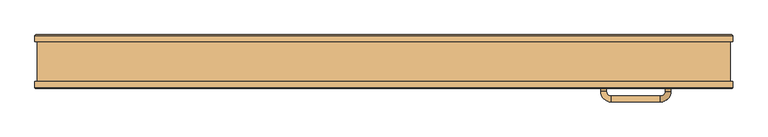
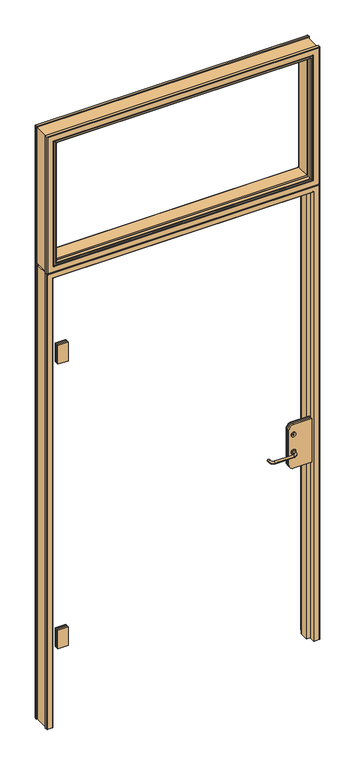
"""IFC4 building model written with IfcOpenShell, lengths in millimetres: door geometry, GLASSLINE_GLASDÖRR I TRAKARM : GLASSLINE_GLASDÖRR I TRAKARM."""

from ifc_helpers import new_model, si_unit, point, frame, frame_2d, origin, place, context, project, spatial, polyline, circle_curve, ellipse_curve, trimmed, segment, composite_curve, outline, extrude, faceted_brep, source, transform, mapped, element, save
from ifc_brep_helpers import plane_surface, cylinder_surface, revolved_surface, advanced_brep


def door_593d37a7(model_context):
    return source(origin(), model_context, "Body", "SolidModel", [
        faceted_brep([(-498.0, 16.0, 436.0), (-498.0, 16.0, 350.0), (-543.0, 16.0, 350.0), (-543.0, 16.0, 436.0), (-498.0, 8.0, 436.0), (-543.0, 8.0, 436.0), (-543.0, 8.0, 350.0), (-498.0, 8.0, 350.0)], [[[0, 1, 2, 3]], [[4, 5, 6, 7]], [[1, 0, 4, 7]], [[2, 1, 7, 6]], [[3, 2, 6, 5]], [[0, 3, 5, 4]]]),
        faceted_brep([(-498.0, 16.0, 1750.0), (-498.0, 16.0, 1664.0), (-543.0, 16.0, 1664.0), (-543.0, 16.0, 1750.0), (-498.0, 8.0, 1750.0), (-543.0, 8.0, 1750.0), (-543.0, 8.0, 1664.0), (-498.0, 8.0, 1664.0)], [[[0, 1, 2, 3]], [[4, 5, 6, 7]], [[1, 0, 4, 7]], [[2, 1, 7, 6]], [[3, 2, 6, 5]], [[0, 3, 5, 4]]]),
        advanced_brep(
        [(565.0, 16.0, 1025.0), (565.0, 16.0, 825.0), (485.0, 16.0, 825.0), (465.0, 16.0, 845.0), (465.0, 16.0, 1005.0), (485.0, 16.0, 1025.0), (565.0, 8.0, 1025.0), (485.0, 8.0, 1025.0), (465.0, 8.0, 1005.0), (465.0, 8.0, 845.0), (485.0, 8.0, 825.0), (565.0, 8.0, 825.0), (475.0, 8.0, 900.0), (495.0, 8.0, 900.0), (475.0, 8.0, 980.0), (495.0, 8.0, 980.0), (484.0, 8.0, 980.631966), (484.0, 8.0, 976.75), (486.0, 8.0, 976.75), (486.0, 8.0, 980.631966), (475.0, 7.1077199, 900.0), (495.0, 7.1077199, 900.0), (475.0, 7.1077199, 980.0), (495.0, 7.1077199, 980.0), (484.0, 7.1077199, 980.631966), (486.0, 7.1077199, 980.631966), (486.0, 7.1077199, 976.75), (484.0, 7.1077199, 976.75)],
        [
            (0, 1),
            (1, 2),
            (2, 3, circle_curve(frame((485.0, 16.0, 845.0), z_axis=(0.0, 1.0, 0.0), x_axis=(1.0, 0.0, 0.0)), 20.0)),
            (3, 4),
            (4, 5, circle_curve(frame((485.0, 16.0, 1005.0), z_axis=(0.0, 1.0, 0.0), x_axis=(1.0, 0.0, 0.0)), 20.0)),
            (5, 0),
            (6, 7),
            (7, 8, circle_curve(frame((485.0, 8.0, 1005.0), z_axis=(0.0, -1.0, 0.0), x_axis=(1.0, 0.0, 0.0)), 20.0)),
            (8, 9),
            (9, 10, circle_curve(frame((485.0, 8.0, 845.0), z_axis=(0.0, -1.0, 0.0), x_axis=(1.0, 0.0, 0.0)), 20.0)),
            (10, 11),
            (11, 6),
            (12, 13, circle_curve(frame((485.0, 8.0, 900.0), z_axis=(0.0, 1.0, 0.0), x_axis=(1.0, 0.0, 0.0)), 10.0)),
            (13, 12, circle_curve(frame((485.0, 8.0, 900.0), z_axis=(0.0, 1.0, 0.0), x_axis=(1.0, 0.0, 0.0)), 10.0)),
            (14, 15, circle_curve(frame((485.0, 8.0, 980.0), z_axis=(0.0, 1.0, 0.0), x_axis=(1.0, 0.0, 0.0)), 10.0)),
            (15, 14, circle_curve(frame((485.0, 8.0, 980.0), z_axis=(0.0, 1.0, 0.0), x_axis=(1.0, 0.0, 0.0)), 10.0)),
            (16, 17),
            (17, 18),
            (18, 19),
            (19, 16, circle_curve(frame((485.0, 8.0, 981.75), z_axis=(0.0, -1.0, 0.0), x_axis=(1.0, 0.0, 0.0)), 1.5)),
            (0, 6),
            (11, 1),
            (10, 2),
            (9, 3),
            (8, 4),
            (7, 5),
            (20, 21, circle_curve(frame((485.0, 7.1077199, 900.0), z_axis=(0.0, -1.0, 0.0), x_axis=(1.0, 0.0, 0.0)), 10.0)),
            (21, 20, circle_curve(frame((485.0, 7.1077199, 900.0), z_axis=(0.0, -1.0, 0.0), x_axis=(1.0, 0.0, 0.0)), 10.0)),
            (22, 23, circle_curve(frame((485.0, 7.1077199, 980.0), z_axis=(0.0, -1.0, 0.0), x_axis=(1.0, 0.0, 0.0)), 10.0)),
            (23, 22, circle_curve(frame((485.0, 7.1077199, 980.0), z_axis=(0.0, -1.0, 0.0), x_axis=(1.0, 0.0, 0.0)), 10.0)),
            (24, 25, circle_curve(frame((485.0, 7.1077199, 981.75), z_axis=(0.0, 1.0, 0.0), x_axis=(1.0, 0.0, 0.0)), 1.5)),
            (25, 26),
            (26, 27),
            (27, 24),
            (21, 13),
            (12, 20),
            (23, 15),
            (14, 22),
            (27, 17),
            (16, 24),
            (26, 18),
            (25, 19),
        ],
        [
            plane_surface(frame((-545.0, 16.0, 0.0), z_axis=(0.0, 1.0, 0.0), x_axis=(0.0, 0.0, 1.0))),
            plane_surface(frame((-545.0, 8.0, 0.0), z_axis=(0.0, -1.0, 0.0), x_axis=(0.0, 0.0, 1.0))),
            plane_surface(frame((565.0, 16.0, 1025.0), z_axis=(1.0, 0.0, 0.0), x_axis=(0.0, -1.0, 0.0))),
            plane_surface(frame((565.0, 16.0, 825.0), z_axis=(0.0, 0.0, -1.0), x_axis=(0.0, -1.0, 0.0))),
            cylinder_surface(frame((485.0, 16.0, 845.0), z_axis=(0.0, 1.0, 0.0), x_axis=(1.0, 0.0, 0.0)), 20.0),
            plane_surface(frame((465.0, 16.0, 845.0), z_axis=(-1.0, 0.0, 0.0), x_axis=(0.0, -1.0, 0.0))),
            cylinder_surface(frame((485.0, 16.0, 1005.0), z_axis=(0.0, 1.0, 0.0), x_axis=(1.0, 0.0, 0.0)), 20.0),
            plane_surface(frame((485.0, 16.0, 1025.0), z_axis=(0.0, 0.0, 1.0), x_axis=(0.0, -1.0, 0.0))),
            plane_surface(frame((485.0, 7.1077199, 0.0), z_axis=(0.0, -1.0, 0.0), x_axis=(0.0, 0.0, 1.0))),
            cylinder_surface(frame((485.0, 16.0, 900.0), z_axis=(0.0, 1.0, 0.0), x_axis=(1.0, 0.0, 0.0)), 10.0),
            cylinder_surface(frame((485.0, 16.0, 980.0), z_axis=(0.0, 1.0, 0.0), x_axis=(1.0, 0.0, 0.0)), 10.0),
            plane_surface(frame((484.0, 16.0, 980.631966), z_axis=(1.0, 0.0, 0.0), x_axis=(0.0, -1.0, 0.0))),
            plane_surface(frame((484.0, 16.0, 976.75), z_axis=(0.0, 0.0, 1.0), x_axis=(0.0, -1.0, 0.0))),
            plane_surface(frame((486.0, 16.0, 976.75), z_axis=(-1.0, 0.0, 0.0), x_axis=(0.0, -1.0, 0.0))),
            revolved_surface(polyline([(486.5, 7.107719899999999, 981.75), (486.5, 8.0, 981.75)]), (485.0, 16.0, 981.75), (0.0, -1.0, 0.0)),
        ],
        [
            (0, [[1, 2, 3, 4, 5, 6]]),
            (1, [[7, 8, 9, 10, 11, 12], [13, 14], [15, 16]]),
            (1, [[17, 18, 19, 20]]),
            (2, [[-1, 21, -12, 22]]),
            (3, [[-2, -22, -11, 23]]),
            (4, [[-3, -23, -10, 24]]),
            (5, [[-4, -24, -9, 25]]),
            (6, [[-5, -25, -8, 26]]),
            (7, [[-6, -26, -7, -21]]),
            (8, [[27, 28]]),
            (8, [[29, 30], [31, 32, 33, 34]]),
            (9, [[-28, 35, -13, 36]]),
            (9, [[-27, -36, -14, -35]]),
            (10, [[-30, 37, -15, 38]]),
            (10, [[-29, -38, -16, -37]]),
            (11, [[-34, 39, -17, 40]]),
            (12, [[-33, 41, -18, -39]]),
            (13, [[-32, 42, -19, -41]]),
            (14, [[-31, -40, -20, -42]]),
        ],
    ),
        extrude(outline(polyline([(-498.0, 24.0), (-543.0, 24.0), (-543.0, 28.0), (-498.0, 28.0), (-498.0, 24.0)])), frame((0.0, 0.0, 350.0), z_axis=(0.0, 0.0, 1.0), x_axis=(1.0, 0.0, 0.0)), (0.0, 0.0, 1.0), 86.0),
        extrude(outline(polyline([(-498.0, 24.0), (-543.0, 24.0), (-543.0, 28.0), (-498.0, 28.0), (-498.0, 24.0)])), frame((0.0, 0.0, 1664.0), z_axis=(0.0, 0.0, 1.0), x_axis=(1.0, 0.0, 0.0)), (0.0, 0.0, 1.0), 86.0),
        extrude(outline(composite_curve([segment(polyline([(1025.0, 565.0), (1025.0, 485.0)]), True, "CONTINUOUS"), segment(trimmed(circle_curve(frame_2d((1005.0, 485.0)), 20.0), [point((1025.0, 485.0))], [point((1005.0, 465.0))], False, "CARTESIAN"), True, "CONTINUOUS"), segment(polyline([(1005.0, 465.0), (845.0, 465.0)]), True, "CONTINUOUS"), segment(trimmed(circle_curve(frame_2d((845.0, 485.0)), 20.0), [point((845.0, 465.0))], [point((825.0, 485.0))], False, "CARTESIAN"), True, "CONTINUOUS"), segment(polyline([(825.0, 485.0), (825.0, 565.0), (1025.0, 565.0)]), True, "CONTINUOUS")], self_intersect=False)), frame((0.0, 24.0, 0.0), z_axis=(0.0, 1.0, 0.0), x_axis=(0.0, 0.0, 1.0)), (0.0, 0.0, 1.0), 4.0),
        advanced_brep(
        [(-595.0, 12.0, 2735.0), (-595.0, 2.0, 2735.0), (595.0, 2.0, 2735.0), (595.0, 12.0, 2735.0), (595.0, 2.0, 2100.0), (595.0, 12.0, 2100.0), (-595.0, 2.0, 2100.0), (-595.0, 12.0, 2100.0), (-563.0, 0.0, 2703.0), (-563.0, 0.0, 2132.0), (563.0, 0.0, 2132.0), (563.0, 0.0, 2703.0), (557.0, 0.0, 2697.0), (557.0, 0.0, 2138.0), (-557.0, 0.0, 2138.0), (-557.0, 0.0, 2697.0), (593.0, 92.0, 2733.0), (593.0, 92.0, 2102.0), (-593.0, 92.0, 2102.0), (-593.0, 92.0, 2733.0), (-569.0, 92.0, 2709.0), (-569.0, 92.0, 2126.0), (569.0, 92.0, 2126.0), (569.0, 92.0, 2709.0), (555.0, 2.0, 2695.0), (555.0, 17.0, 2695.0), (555.0, 17.0, 2140.0), (555.0, 2.0, 2140.0), (593.0, 0.0, 2733.0), (593.0, 0.0, 2102.0), (591.0, 80.0, 2731.0), (591.0, 12.0, 2731.0), (591.0, 12.0, 2104.0), (591.0, 80.0, 2104.0), (595.0, 90.0, 2735.0), (595.0, 80.0, 2735.0), (595.0, 80.0, 2100.0), (595.0, 90.0, 2100.0), (-555.0, 17.0, 2140.0), (-555.0, 2.0, 2140.0), (-593.0, 0.0, 2102.0), (-591.0, 12.0, 2104.0), (-591.0, 80.0, 2104.0), (-595.0, 80.0, 2100.0), (-595.0, 90.0, 2100.0), (-555.0, 17.0, 2695.0), (-555.0, 2.0, 2695.0), (-593.0, 0.0, 2733.0), (-591.0, 12.0, 2731.0), (-591.0, 80.0, 2731.0), (-595.0, 80.0, 2735.0), (-595.0, 90.0, 2735.0), (567.0, 90.0, 2707.0), (567.0, 90.0, 2128.0), (555.0, 88.0, 2695.0), (557.0, 90.0, 2697.0), (557.0, 90.0, 2138.0), (555.0, 88.0, 2140.0), (555.0, 28.0, 2695.0), (555.0, 28.0, 2140.0), (563.0, 17.0, 2703.0), (563.0, 28.0, 2703.0), (563.0, 28.0, 2132.0), (563.0, 17.0, 2132.0), (565.0, 2.0, 2705.0), (565.0, 2.0, 2130.0), (567.0, 0.0, 2707.0), (567.0, 0.0, 2128.0), (-567.0, 90.0, 2128.0), (-557.0, 90.0, 2138.0), (-555.0, 88.0, 2140.0), (-555.0, 28.0, 2140.0), (-563.0, 28.0, 2132.0), (-563.0, 17.0, 2132.0), (-565.0, 2.0, 2130.0), (-567.0, 0.0, 2128.0), (-567.0, 90.0, 2707.0), (-557.0, 90.0, 2697.0), (-555.0, 88.0, 2695.0), (-555.0, 28.0, 2695.0), (-563.0, 28.0, 2703.0), (-563.0, 17.0, 2703.0), (-565.0, 2.0, 2705.0), (-567.0, 0.0, 2707.0)],
        [
            (0, 1),
            (1, 2),
            (2, 3),
            (3, 0),
            (2, 4),
            (4, 5),
            (5, 3),
            (4, 6),
            (6, 7),
            (7, 5),
            (8, 9),
            (9, 10),
            (10, 11),
            (11, 8),
            (12, 13),
            (13, 14),
            (14, 15),
            (15, 12),
            (6, 1),
            (0, 7),
            (16, 17),
            (17, 18),
            (18, 19),
            (19, 16),
            (20, 21),
            (21, 22),
            (22, 23),
            (23, 20),
            (24, 25),
            (25, 26),
            (26, 27),
            (27, 24),
            (12, 24, ellipse_curve(frame((557.0, 2.0, 2697.0), z_axis=(0.7071067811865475, 0.0, -0.7071067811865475), x_axis=(0.7071067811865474, 0.0, 0.7071067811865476)), 2.8284271, 2.0)),
            (27, 13, ellipse_curve(frame((557.0, 2.0, 2138.0), z_axis=(0.7071067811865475, 0.0, 0.7071067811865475), x_axis=(-0.7071067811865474, 0.0, 0.7071067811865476)), 2.8284271, 2.0)),
            (2, 28, ellipse_curve(frame((593.0, 2.0, 2733.0), z_axis=(0.7071067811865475, 0.0, -0.7071067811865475), x_axis=(0.7071067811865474, 0.0, 0.7071067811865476)), 2.8284271, 2.0)),
            (28, 29),
            (29, 4, ellipse_curve(frame((593.0, 2.0, 2102.0), z_axis=(0.7071067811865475, 0.0, 0.7071067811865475), x_axis=(-0.7071067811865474, 0.0, 0.7071067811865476)), 2.8284271, 2.0)),
            (30, 31),
            (31, 32),
            (32, 33),
            (33, 30),
            (34, 35),
            (35, 36),
            (36, 37),
            (37, 34),
            (16, 34, ellipse_curve(frame((593.0, 90.0, 2733.0), z_axis=(0.7071067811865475, 0.0, -0.7071067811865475), x_axis=(0.7071067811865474, 0.0, 0.7071067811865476)), 2.8284271, 2.0)),
            (37, 17, ellipse_curve(frame((593.0, 90.0, 2102.0), z_axis=(0.7071067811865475, 0.0, 0.7071067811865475), x_axis=(-0.7071067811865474, 0.0, 0.7071067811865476)), 2.8284271, 2.0)),
            (26, 38),
            (38, 39),
            (39, 27),
            (39, 14, ellipse_curve(frame((-557.0, 2.0, 2138.0), z_axis=(0.7071067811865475, 0.0, -0.7071067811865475), x_axis=(0.7071067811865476, 0.0, 0.7071067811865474)), 2.8284271, 2.0)),
            (29, 40),
            (40, 6, ellipse_curve(frame((-593.0, 2.0, 2102.0), z_axis=(0.7071067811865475, 0.0, -0.7071067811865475), x_axis=(0.7071067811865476, 0.0, 0.7071067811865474)), 2.8284271, 2.0)),
            (32, 41),
            (41, 42),
            (42, 33),
            (36, 43),
            (43, 44),
            (44, 37),
            (44, 18, ellipse_curve(frame((-593.0, 90.0, 2102.0), z_axis=(0.7071067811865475, 0.0, -0.7071067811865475), x_axis=(0.7071067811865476, 0.0, 0.7071067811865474)), 2.8284271, 2.0)),
            (38, 45),
            (45, 46),
            (46, 39),
            (46, 15, ellipse_curve(frame((-557.0, 2.0, 2697.0), z_axis=(-0.7071067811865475, 0.0, -0.7071067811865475), x_axis=(0.7071067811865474, 0.0, -0.7071067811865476)), 2.8284271, 2.0)),
            (40, 47),
            (47, 1, ellipse_curve(frame((-593.0, 2.0, 2733.0), z_axis=(-0.7071067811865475, 0.0, -0.7071067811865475), x_axis=(0.7071067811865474, 0.0, -0.7071067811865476)), 2.8284271, 2.0)),
            (41, 48),
            (48, 49),
            (49, 42),
            (43, 50),
            (50, 51),
            (51, 44),
            (51, 19, ellipse_curve(frame((-593.0, 90.0, 2733.0), z_axis=(-0.7071067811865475, 0.0, -0.7071067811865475), x_axis=(0.7071067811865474, 0.0, -0.7071067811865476)), 2.8284271, 2.0)),
            (45, 25),
            (24, 46),
            (47, 28),
            (31, 48),
            (30, 49),
            (35, 50),
            (34, 51),
            (52, 23, ellipse_curve(frame((569.0, 90.0, 2709.0), z_axis=(0.7071067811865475, 0.0, -0.7071067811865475), x_axis=(0.7071067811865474, 0.0, 0.7071067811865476)), 2.8284271, 2.0)),
            (22, 53, ellipse_curve(frame((569.0, 90.0, 2126.0), z_axis=(0.7071067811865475, 0.0, 0.7071067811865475), x_axis=(-0.7071067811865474, 0.0, 0.7071067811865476)), 2.8284271, 2.0)),
            (53, 52),
            (54, 55, ellipse_curve(frame((557.0, 88.0, 2697.0), z_axis=(0.7071067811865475, 0.0, -0.7071067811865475), x_axis=(0.7071067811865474, 0.0, 0.7071067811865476)), 2.8284271, 2.0)),
            (55, 56),
            (56, 57, ellipse_curve(frame((557.0, 88.0, 2138.0), z_axis=(0.7071067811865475, 0.0, 0.7071067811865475), x_axis=(-0.7071067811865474, 0.0, 0.7071067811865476)), 2.8284271, 2.0)),
            (57, 54),
            (58, 54),
            (57, 59),
            (59, 58),
            (60, 61),
            (61, 62),
            (62, 63),
            (63, 60),
            (64, 11, ellipse_curve(frame((563.0, 2.0, 2703.0), z_axis=(0.7071067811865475, 0.0, -0.7071067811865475), x_axis=(0.7071067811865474, 0.0, 0.7071067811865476)), 2.8284271, 2.0)),
            (10, 65, ellipse_curve(frame((563.0, 2.0, 2132.0), z_axis=(0.7071067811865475, 0.0, 0.7071067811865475), x_axis=(-0.7071067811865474, 0.0, 0.7071067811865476)), 2.8284271, 2.0)),
            (65, 64),
            (66, 64, ellipse_curve(frame((567.0, 2.0, 2707.0), z_axis=(0.7071067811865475, 0.0, -0.7071067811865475), x_axis=(0.7071067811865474, 0.0, 0.7071067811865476)), 2.8284271, 2.0)),
            (65, 67, ellipse_curve(frame((567.0, 2.0, 2128.0), z_axis=(0.7071067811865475, 0.0, 0.7071067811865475), x_axis=(-0.7071067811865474, 0.0, 0.7071067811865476)), 2.8284271, 2.0)),
            (67, 66),
            (21, 68, ellipse_curve(frame((-569.0, 90.0, 2126.0), z_axis=(0.7071067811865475, 0.0, -0.7071067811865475), x_axis=(0.7071067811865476, 0.0, 0.7071067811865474)), 2.8284271, 2.0)),
            (68, 53),
            (56, 69),
            (69, 70, ellipse_curve(frame((-557.0, 88.0, 2138.0), z_axis=(0.7071067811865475, 0.0, -0.7071067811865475), x_axis=(0.7071067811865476, 0.0, 0.7071067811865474)), 2.8284271, 2.0)),
            (70, 57),
            (70, 71),
            (71, 59),
            (62, 72),
            (72, 73),
            (73, 63),
            (9, 74, ellipse_curve(frame((-563.0, 2.0, 2132.0), z_axis=(0.7071067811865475, 0.0, -0.7071067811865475), x_axis=(0.7071067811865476, 0.0, 0.7071067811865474)), 2.8284271, 2.0)),
            (74, 65),
            (74, 75, ellipse_curve(frame((-567.0, 2.0, 2128.0), z_axis=(0.7071067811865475, 0.0, -0.7071067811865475), x_axis=(0.7071067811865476, 0.0, 0.7071067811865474)), 2.8284271, 2.0)),
            (75, 67),
            (20, 76, ellipse_curve(frame((-569.0, 90.0, 2709.0), z_axis=(-0.7071067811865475, 0.0, -0.7071067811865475), x_axis=(0.7071067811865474, 0.0, -0.7071067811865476)), 2.8284271, 2.0)),
            (76, 68),
            (69, 77),
            (77, 78, ellipse_curve(frame((-557.0, 88.0, 2697.0), z_axis=(-0.7071067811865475, 0.0, -0.7071067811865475), x_axis=(0.7071067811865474, 0.0, -0.7071067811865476)), 2.8284271, 2.0)),
            (78, 70),
            (78, 79),
            (79, 71),
            (72, 80),
            (80, 81),
            (81, 73),
            (8, 82, ellipse_curve(frame((-563.0, 2.0, 2703.0), z_axis=(-0.7071067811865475, 0.0, -0.7071067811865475), x_axis=(0.7071067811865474, 0.0, -0.7071067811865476)), 2.8284271, 2.0)),
            (82, 74),
            (82, 83, ellipse_curve(frame((-567.0, 2.0, 2707.0), z_axis=(-0.7071067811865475, 0.0, -0.7071067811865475), x_axis=(0.7071067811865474, 0.0, -0.7071067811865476)), 2.8284271, 2.0)),
            (83, 75),
            (52, 76),
            (55, 77),
            (54, 78),
            (58, 79),
            (61, 80),
            (60, 81),
            (64, 82),
            (66, 83),
        ],
        [
            plane_surface(frame((-595.0, 2.0, 2735.0), z_axis=(0.0, 0.0, 1.0), x_axis=(1.0, 0.0, 0.0))),
            plane_surface(frame((595.0, 2.0, 2735.0), z_axis=(1.0, 0.0, 0.0), x_axis=(0.0, 0.0, -1.0))),
            plane_surface(frame((595.0, 2.0, 2100.0), z_axis=(0.0, 0.0, -1.0), x_axis=(-1.0, 0.0, 0.0))),
            plane_surface(frame((-557.0, 0.0, 2138.0), z_axis=(0.0, -1.0, 0.0), x_axis=(0.0, 0.0, 1.0))),
            plane_surface(frame((-595.0, 2.0, 2100.0), z_axis=(-1.0, 0.0, 0.0), x_axis=(0.0, 0.0, 1.0))),
            plane_surface(frame((-593.0, 92.0, 2102.0), z_axis=(0.0, 1.0, 0.0), x_axis=(0.0, 0.0, 1.0))),
            plane_surface(frame((555.0, 17.0, 2695.0), z_axis=(-1.0, 0.0, 0.0), x_axis=(0.0, 0.0, -1.0))),
            cylinder_surface(frame((557.0, 2.0, 2735.0), z_axis=(0.0, 0.0, 1.0), x_axis=(1.0, 0.0, 0.0)), 2.0),
            cylinder_surface(frame((593.0, 2.0, 2735.0), z_axis=(0.0, 0.0, 1.0), x_axis=(1.0, 0.0, 0.0)), 2.0),
            plane_surface(frame((591.0, 12.0, 2731.0), z_axis=(1.0, 0.0, 0.0), x_axis=(0.0, 0.0, -1.0))),
            plane_surface(frame((595.0, 80.0, 2735.0), z_axis=(1.0, 0.0, 0.0), x_axis=(0.0, 0.0, -1.0))),
            cylinder_surface(frame((593.0, 90.0, 2735.0), z_axis=(0.0, 0.0, 1.0), x_axis=(1.0, 0.0, 0.0)), 2.0),
            plane_surface(frame((555.0, 17.0, 2140.0), z_axis=(0.0, 0.0, 1.0), x_axis=(-1.0, 0.0, 0.0))),
            cylinder_surface(frame((595.0, 2.0, 2138.0), z_axis=(1.0, 0.0, 0.0), x_axis=(0.0, 0.0, -1.0)), 2.0),
            cylinder_surface(frame((595.0, 2.0, 2102.0), z_axis=(1.0, 0.0, 0.0), x_axis=(0.0, 0.0, -1.0)), 2.0),
            plane_surface(frame((591.0, 12.0, 2104.0), z_axis=(0.0, 0.0, -1.0), x_axis=(-1.0, 0.0, 0.0))),
            plane_surface(frame((595.0, 80.0, 2100.0), z_axis=(0.0, 0.0, -1.0), x_axis=(-1.0, 0.0, 0.0))),
            cylinder_surface(frame((595.0, 90.0, 2102.0), z_axis=(1.0, 0.0, 0.0), x_axis=(0.0, 0.0, -1.0)), 2.0),
            plane_surface(frame((-555.0, 17.0, 2140.0), z_axis=(1.0, 0.0, 0.0), x_axis=(0.0, 0.0, 1.0))),
            cylinder_surface(frame((-557.0, 2.0, 2100.0), z_axis=(0.0, 0.0, -1.0), x_axis=(-1.0, 0.0, 0.0)), 2.0),
            cylinder_surface(frame((-593.0, 2.0, 2100.0), z_axis=(0.0, 0.0, -1.0), x_axis=(-1.0, 0.0, 0.0)), 2.0),
            plane_surface(frame((-591.0, 12.0, 2104.0), z_axis=(-1.0, 0.0, 0.0), x_axis=(0.0, 0.0, 1.0))),
            plane_surface(frame((-595.0, 80.0, 2100.0), z_axis=(-1.0, 0.0, 0.0), x_axis=(0.0, 0.0, 1.0))),
            cylinder_surface(frame((-593.0, 90.0, 2100.0), z_axis=(0.0, 0.0, -1.0), x_axis=(-1.0, 0.0, 0.0)), 2.0),
            plane_surface(frame((-555.0, 17.0, 2695.0), z_axis=(0.0, 0.0, -1.0), x_axis=(1.0, 0.0, 0.0))),
            cylinder_surface(frame((-595.0, 2.0, 2697.0), z_axis=(-1.0, 0.0, 0.0), x_axis=(0.0, 0.0, 1.0)), 2.0),
            cylinder_surface(frame((-595.0, 2.0, 2733.0), z_axis=(-1.0, 0.0, 0.0), x_axis=(0.0, 0.0, 1.0)), 2.0),
            plane_surface(frame((-595.0, 12.0, 2735.0), z_axis=(0.0, 1.0, 0.0), x_axis=(1.0, 0.0, 0.0))),
            plane_surface(frame((-591.0, 12.0, 2731.0), z_axis=(0.0, 0.0, 1.0), x_axis=(1.0, 0.0, 0.0))),
            plane_surface(frame((-591.0, 80.0, 2731.0), z_axis=(0.0, -1.0, 0.0), x_axis=(1.0, 0.0, 0.0))),
            plane_surface(frame((-595.0, 80.0, 2735.0), z_axis=(0.0, 0.0, 1.0), x_axis=(1.0, 0.0, 0.0))),
            cylinder_surface(frame((-595.0, 90.0, 2733.0), z_axis=(-1.0, 0.0, 0.0), x_axis=(0.0, 0.0, 1.0)), 2.0),
            cylinder_surface(frame((569.0, 90.0, 2735.0), z_axis=(0.0, 0.0, 1.0), x_axis=(1.0, 0.0, 0.0)), 2.0),
            cylinder_surface(frame((557.0, 88.0, 2735.0), z_axis=(0.0, 0.0, 1.0), x_axis=(1.0, 0.0, 0.0)), 2.0),
            plane_surface(frame((555.0, 88.0, 2695.0), z_axis=(-1.0, 0.0, 0.0), x_axis=(0.0, 0.0, -1.0))),
            plane_surface(frame((563.0, 28.0, 2703.0), z_axis=(-1.0, 0.0, 0.0), x_axis=(0.0, 0.0, -1.0))),
            cylinder_surface(frame((563.0, 2.0, 2735.0), z_axis=(0.0, 0.0, 1.0), x_axis=(1.0, 0.0, 0.0)), 2.0),
            cylinder_surface(frame((567.0, 2.0, 2735.0), z_axis=(0.0, 0.0, 1.0), x_axis=(1.0, 0.0, 0.0)), 2.0),
            cylinder_surface(frame((595.0, 90.0, 2126.0), z_axis=(1.0, 0.0, 0.0), x_axis=(0.0, 0.0, -1.0)), 2.0),
            cylinder_surface(frame((595.0, 88.0, 2138.0), z_axis=(1.0, 0.0, 0.0), x_axis=(0.0, 0.0, -1.0)), 2.0),
            plane_surface(frame((555.0, 88.0, 2140.0), z_axis=(0.0, 0.0, 1.0), x_axis=(-1.0, 0.0, 0.0))),
            plane_surface(frame((563.0, 28.0, 2132.0), z_axis=(0.0, 0.0, 1.0), x_axis=(-1.0, 0.0, 0.0))),
            cylinder_surface(frame((595.0, 2.0, 2132.0), z_axis=(1.0, 0.0, 0.0), x_axis=(0.0, 0.0, -1.0)), 2.0),
            cylinder_surface(frame((595.0, 2.0, 2128.0), z_axis=(1.0, 0.0, 0.0), x_axis=(0.0, 0.0, -1.0)), 2.0),
            cylinder_surface(frame((-569.0, 90.0, 2100.0), z_axis=(0.0, 0.0, -1.0), x_axis=(-1.0, 0.0, 0.0)), 2.0),
            cylinder_surface(frame((-557.0, 88.0, 2100.0), z_axis=(0.0, 0.0, -1.0), x_axis=(-1.0, 0.0, 0.0)), 2.0),
            plane_surface(frame((-555.0, 88.0, 2140.0), z_axis=(1.0, 0.0, 0.0), x_axis=(0.0, 0.0, 1.0))),
            plane_surface(frame((-563.0, 28.0, 2132.0), z_axis=(1.0, 0.0, 0.0), x_axis=(0.0, 0.0, 1.0))),
            cylinder_surface(frame((-563.0, 2.0, 2100.0), z_axis=(0.0, 0.0, -1.0), x_axis=(-1.0, 0.0, 0.0)), 2.0),
            cylinder_surface(frame((-567.0, 2.0, 2100.0), z_axis=(0.0, 0.0, -1.0), x_axis=(-1.0, 0.0, 0.0)), 2.0),
            cylinder_surface(frame((-595.0, 90.0, 2709.0), z_axis=(-1.0, 0.0, 0.0), x_axis=(0.0, 0.0, 1.0)), 2.0),
            plane_surface(frame((-567.0, 90.0, 2707.0), z_axis=(0.0, 1.0, 0.0), x_axis=(1.0, 0.0, 0.0))),
            cylinder_surface(frame((-595.0, 88.0, 2697.0), z_axis=(-1.0, 0.0, 0.0), x_axis=(0.0, 0.0, 1.0)), 2.0),
            plane_surface(frame((-555.0, 88.0, 2695.0), z_axis=(0.0, 0.0, -1.0), x_axis=(1.0, 0.0, 0.0))),
            plane_surface(frame((-555.0, 28.0, 2695.0), z_axis=(0.0, -1.0, 0.0), x_axis=(1.0, 0.0, 0.0))),
            plane_surface(frame((-563.0, 28.0, 2703.0), z_axis=(0.0, 0.0, -1.0), x_axis=(1.0, 0.0, 0.0))),
            plane_surface(frame((-563.0, 17.0, 2703.0), z_axis=(0.0, 1.0, 0.0), x_axis=(1.0, 0.0, 0.0))),
            cylinder_surface(frame((-595.0, 2.0, 2703.0), z_axis=(-1.0, 0.0, 0.0), x_axis=(0.0, 0.0, 1.0)), 2.0),
            cylinder_surface(frame((-595.0, 2.0, 2707.0), z_axis=(-1.0, 0.0, 0.0), x_axis=(0.0, 0.0, 1.0)), 2.0),
            plane_surface(frame((-567.0, 0.0, 2707.0), z_axis=(0.0, -1.0, 0.0), x_axis=(1.0, 0.0, 0.0))),
        ],
        [
            (0, [[1, 2, 3, 4]]),
            (1, [[-3, 5, 6, 7]]),
            (2, [[-6, 8, 9, 10]]),
            (3, [[11, 12, 13, 14], [15, 16, 17, 18]]),
            (4, [[-9, 19, -1, 20]]),
            (5, [[21, 22, 23, 24], [25, 26, 27, 28]]),
            (6, [[29, 30, 31, 32]]),
            (7, [[33, -32, 34, -15]]),
            (8, [[35, 36, 37, -5]]),
            (9, [[38, 39, 40, 41]]),
            (10, [[42, 43, 44, 45]]),
            (11, [[46, -45, 47, -21]]),
            (12, [[-31, 48, 49, 50]]),
            (13, [[-34, -50, 51, -16]]),
            (14, [[-37, 52, 53, -8]]),
            (15, [[-40, 54, 55, 56]]),
            (16, [[-44, 57, 58, 59]]),
            (17, [[-47, -59, 60, -22]]),
            (18, [[-49, 61, 62, 63]]),
            (19, [[-51, -63, 64, -17]]),
            (20, [[-53, 65, 66, -19]]),
            (21, [[-55, 67, 68, 69]]),
            (22, [[-58, 70, 71, 72]]),
            (23, [[-60, -72, 73, -23]]),
            (24, [[-62, 74, -29, 75]]),
            (25, [[-64, -75, -33, -18]]),
            (26, [[-66, 76, -35, -2]]),
            (27, [[-10, -20, -4, -7], [77, -67, -54, -39]]),
            (28, [[-68, -77, -38, 78]]),
            (29, [[79, -70, -57, -43], [-56, -69, -78, -41]]),
            (30, [[-71, -79, -42, 80]]),
            (31, [[-73, -80, -46, -24]]),
            (32, [[81, -27, 82, 83]]),
            (33, [[84, 85, 86, 87]]),
            (34, [[88, -87, 89, 90]]),
            (35, [[91, 92, 93, 94]]),
            (36, [[95, -13, 96, 97]]),
            (37, [[98, -97, 99, 100]]),
            (38, [[-82, -26, 101, 102]]),
            (39, [[-86, 103, 104, 105]]),
            (40, [[-89, -105, 106, 107]]),
            (41, [[-93, 108, 109, 110]]),
            (42, [[-96, -12, 111, 112]]),
            (43, [[-99, -112, 113, 114]]),
            (44, [[-101, -25, 115, 116]]),
            (45, [[-104, 117, 118, 119]]),
            (46, [[-106, -119, 120, 121]]),
            (47, [[-109, 122, 123, 124]]),
            (48, [[-111, -11, 125, 126]]),
            (49, [[-113, -126, 127, 128]]),
            (50, [[-115, -28, -81, 129]]),
            (51, [[-102, -116, -129, -83], [130, -117, -103, -85]]),
            (52, [[-118, -130, -84, 131]]),
            (53, [[-120, -131, -88, 132]]),
            (54, [[133, -122, -108, -92], [-107, -121, -132, -90]]),
            (55, [[-123, -133, -91, 134]]),
            (56, [[-110, -124, -134, -94], [-74, -61, -48, -30]]),
            (57, [[-125, -14, -95, 135]]),
            (58, [[-127, -135, -98, 136]]),
            (59, [[-76, -65, -52, -36], [-114, -128, -136, -100]]),
        ],
    ),
        advanced_brep(
        [(480.0, 16.0, 900.0), (490.0, 16.0, 900.0), (480.0, -4.5, 900.0), (490.0, -4.5, 900.0), (380.0, 6.0, 900.0), (370.0, 6.0, 900.0), (472.0, -22.5, 900.0), (472.0, -12.5, 900.0), (388.0, -12.5, 900.0), (388.0, -22.5, 900.0), (370.0, -4.5, 900.0), (380.0, -4.5, 900.0)],
        [
            (0, 1, circle_curve(frame((485.0, 16.0, 900.0), z_axis=(0.0, 1.0, 0.0), x_axis=(1.0, 0.0, 0.0)), 5.0)),
            (1, 0, circle_curve(frame((485.0, 16.0, 900.0), z_axis=(0.0, 1.0, 0.0), x_axis=(1.0, 0.0, 0.0)), 5.0)),
            (0, 2),
            (2, 3, circle_curve(frame((485.0, -4.5, 900.0), z_axis=(0.0, 1.0, 0.0), x_axis=(1.0, 0.0, 0.0)), 5.0)),
            (3, 1),
            (3, 2, circle_curve(frame((485.0, -4.5, 900.0), z_axis=(0.0, 1.0, 0.0), x_axis=(1.0, 0.0, 0.0)), 5.0)),
            (4, 5, circle_curve(frame((375.0, 6.0, 900.0), z_axis=(0.0, 1.0, 0.0), x_axis=(-1.0, 0.0, 0.0)), 5.0)),
            (5, 4, circle_curve(frame((375.0, 6.0, 900.0), z_axis=(0.0, 1.0, 0.0), x_axis=(-1.0, 0.0, 0.0)), 5.0)),
            (6, 3, circle_curve(frame((472.0, -4.5, 900.0), z_axis=(0.0, 0.0, 1.0), x_axis=(1.0, 0.0, 0.0)), 18.0)),
            (2, 7, circle_curve(frame((472.0, -4.5, 900.0), z_axis=(0.0, 0.0, -1.0), x_axis=(1.0, 0.0, 0.0)), 8.0)),
            (7, 6, circle_curve(frame((472.0, -17.5, 900.0), z_axis=(1.0, 0.0, 0.0), x_axis=(0.0, -1.0, 0.0)), 5.0)),
            (6, 7, circle_curve(frame((472.0, -17.5, 900.0), z_axis=(1.0, 0.0, 0.0), x_axis=(0.0, -1.0, 0.0)), 5.0)),
            (7, 8),
            (8, 9, circle_curve(frame((388.0, -17.5, 900.0), z_axis=(1.0, 0.0, 0.0), x_axis=(0.0, -1.0, 0.0)), 5.0)),
            (9, 6),
            (9, 8, circle_curve(frame((388.0, -17.5, 900.0), z_axis=(1.0, 0.0, 0.0), x_axis=(0.0, -1.0, 0.0)), 5.0)),
            (10, 9, circle_curve(frame((388.0, -4.5, 900.0), z_axis=(0.0, 0.0, 1.0), x_axis=(0.0, -1.0, 0.0)), 18.0)),
            (8, 11, circle_curve(frame((388.0, -4.5, 900.0), z_axis=(0.0, 0.0, -1.0), x_axis=(0.0, -1.0, 0.0)), 8.0)),
            (11, 10, circle_curve(frame((375.0, -4.5, 900.0), z_axis=(0.0, -1.0, 0.0), x_axis=(-1.0, 0.0, 0.0)), 5.0)),
            (10, 11, circle_curve(frame((375.0, -4.5, 900.0), z_axis=(0.0, -1.0, 0.0), x_axis=(-1.0, 0.0, 0.0)), 5.0)),
            (11, 4),
            (5, 10),
        ],
        [
            plane_surface(frame((485.0, 16.0, 0.0), z_axis=(0.0, 1.0, 0.0), x_axis=(0.0, 0.0, 1.0))),
            cylinder_surface(frame((485.0, 16.0, 900.0), z_axis=(0.0, 1.0, 0.0), x_axis=(1.0, 0.0, 0.0)), 5.0),
            plane_surface(frame((375.0, 6.0, 0.0), z_axis=(0.0, 1.0, 0.0), x_axis=(0.0, 0.0, 1.0))),
            revolved_surface(trimmed(ellipse_curve(frame((485.0, -4.5, 900.0), z_axis=(0.0, 1.0, 0.0), x_axis=(1.0, 0.0, 0.0)), 5.0, 5.0), [point((480.0, -4.5, 900.0))], [point((490.0, -4.5, 900.0))], True, "CARTESIAN"), (472.0, -4.5, 0.0), (0.0, 0.0, -1.0)),
            revolved_surface(trimmed(ellipse_curve(frame((485.0, -4.5, 900.0), z_axis=(0.0, 1.0, 0.0), x_axis=(1.0, 0.0, 0.0)), 5.0, 5.0), [point((490.0, -4.5, 900.0))], [point((480.0, -4.5, 900.0))], True, "CARTESIAN"), (472.0, -4.5, 0.0), (0.0, 0.0, -1.0)),
            cylinder_surface(frame((472.0, -17.5, 900.0), z_axis=(1.0, 0.0, 0.0), x_axis=(0.0, -1.0, 0.0)), 5.0),
            revolved_surface(trimmed(ellipse_curve(frame((388.0, -17.5, 900.0), z_axis=(1.0, 0.0, 0.0), x_axis=(0.0, -1.0, 0.0)), 5.0, 5.0), [point((388.0, -12.5, 900.0))], [point((388.0, -22.5, 900.0))], True, "CARTESIAN"), (388.0, -4.5, 0.0), (0.0, 0.0, -1.0)),
            revolved_surface(trimmed(ellipse_curve(frame((388.0, -17.5, 900.0), z_axis=(1.0, 0.0, 0.0), x_axis=(0.0, -1.0, 0.0)), 5.0, 5.0), [point((388.0, -22.5, 900.0))], [point((388.0, -12.5, 900.0))], True, "CARTESIAN"), (388.0, -4.5, 0.0), (0.0, 0.0, -1.0)),
            cylinder_surface(frame((375.0, -4.5, 900.0), z_axis=(0.0, -1.0, 0.0), x_axis=(-1.0, 0.0, 0.0)), 5.0),
        ],
        [
            (0, [[1, 2]]),
            (1, [[-1, 3, 4, 5]]),
            (1, [[-2, -5, 6, -3]]),
            (2, [[7, 8]]),
            (3, [[9, -4, 10, 11]]),
            (4, [[-10, -6, -9, 12]]),
            (5, [[-11, 13, 14, 15]]),
            (5, [[-12, -15, 16, -13]]),
            (6, [[17, -14, 18, 19]]),
            (7, [[-18, -16, -17, 20]]),
            (8, [[-19, 21, -8, 22]]),
            (8, [[-20, -22, -7, -21]]),
        ],
    ),
        advanced_brep(
        [(-571.5, 0.0, 0.0), (-593.0, 0.0, 0.0), (-595.0, 2.0, 0.0), (-595.0, 12.0, 0.0), (-591.0, 12.0, 0.0), (-591.0, 12.8, 0.0), (-577.0, 12.8, 0.0), (-577.0, 16.8, 0.0), (-591.0, 16.8, 0.0), (-591.0, 75.8, 0.0), (-577.0, 75.8, 0.0), (-577.0, 79.8, 0.0), (-591.0, 79.8, 0.0), (-591.0, 80.6, 0.0), (-595.0, 80.6, 0.0), (-595.0, 90.0, 0.0), (-593.0, 92.0, 0.0), (-567.0, 92.0, 0.0), (-565.0, 90.0, 0.0), (-565.0, 70.0, 0.0), (-555.0, 70.0, 0.0), (-553.0, 68.0, 0.0), (-553.0, 30.0, 0.0), (-555.0, 28.0, 0.0), (-569.5, 28.0, 0.0), (-569.5, 2.0, 0.0), (571.5, 0.0, 0.0), (569.5, 2.0, 0.0), (569.5, 28.0, 0.0), (555.0, 28.0, 0.0), (553.0, 30.0, 0.0), (553.0, 68.0, 0.0), (555.0, 70.0, 0.0), (565.0, 70.0, 0.0), (565.0, 90.0, 0.0), (567.0, 92.0, 0.0), (593.0, 92.0, 0.0), (595.0, 90.0, 0.0), (595.0, 80.6, 0.0), (591.0, 80.6, 0.0), (591.0, 79.8, 0.0), (577.0, 79.8, 0.0), (577.0, 75.8, 0.0), (591.0, 75.8, 0.0), (591.0, 16.8, 0.0), (577.0, 16.8, 0.0), (577.0, 12.8, 0.0), (591.0, 12.8, 0.0), (591.0, 12.0, 0.0), (595.0, 12.0, 0.0), (595.0, 2.0, 0.0), (593.0, 0.0, 0.0), (-571.5, 0.0, 2076.5), (571.5, 0.0, 2076.5), (593.0, 0.0, 2098.0), (-593.0, 0.0, 2098.0), (-595.0, 2.0, 2100.0), (-593.0, 92.0, 2098.0), (593.0, 92.0, 2098.0), (567.0, 92.0, 2072.0), (-567.0, 92.0, 2072.0), (595.0, 2.0, 2100.0), (-595.0, 12.0, 2100.0), (595.0, 12.0, 2100.0), (591.0, 12.0, 2096.0), (-591.0, 12.0, 2096.0), (-591.0, 12.8, 2096.0), (591.0, 12.8, 2096.0), (577.0, 12.8, 2082.0), (-577.0, 12.8, 2082.0), (-577.0, 16.8, 2082.0), (577.0, 16.8, 2082.0), (591.0, 16.8, 2096.0), (-591.0, 16.8, 2096.0), (-591.0, 75.8, 2096.0), (591.0, 75.8, 2096.0), (577.0, 75.8, 2082.0), (-577.0, 75.8, 2082.0), (-577.0, 79.8, 2082.0), (577.0, 79.8, 2082.0), (591.0, 79.8, 2096.0), (-591.0, 79.8, 2096.0), (-591.0, 80.6, 2096.0), (591.0, 80.6, 2096.0), (595.0, 80.6, 2100.0), (-595.0, 80.6, 2100.0), (-595.0, 90.0, 2100.0), (-565.0, 90.0, 2070.0), (-565.0, 70.0, 2070.0), (565.0, 70.0, 2070.0), (555.0, 70.0, 2060.0), (-555.0, 70.0, 2060.0), (-553.0, 68.0, 2058.0), (-553.0, 30.0, 2058.0), (-555.0, 28.0, 2060.0), (555.0, 28.0, 2060.0), (569.5, 28.0, 2074.5), (-569.5, 28.0, 2074.5), (-569.5, 2.0, 2074.5), (595.0, 90.0, 2100.0), (565.0, 90.0, 2070.0), (553.0, 68.0, 2058.0), (553.0, 30.0, 2058.0), (569.5, 2.0, 2074.5)],
        [
            (0, 1),
            (1, 2, circle_curve(frame((-593.0, 2.0, 0.0), z_axis=(0.0, 0.0, -1.0), x_axis=(0.0, -1.0, 0.0)), 2.0)),
            (2, 3),
            (3, 4),
            (4, 5),
            (5, 6),
            (6, 7),
            (7, 8),
            (8, 9),
            (9, 10),
            (10, 11),
            (11, 12),
            (12, 13),
            (13, 14),
            (14, 15),
            (15, 16, circle_curve(frame((-593.0, 90.0, 0.0), z_axis=(0.0, 0.0, -1.0), x_axis=(0.0, -1.0, 0.0)), 2.0)),
            (16, 17),
            (17, 18, circle_curve(frame((-567.0, 90.0, 0.0), z_axis=(0.0, 0.0, -1.0), x_axis=(0.0, -1.0, 0.0)), 2.0)),
            (18, 19),
            (19, 20),
            (20, 21, circle_curve(frame((-555.0, 68.0, 0.0), z_axis=(0.0, 0.0, -1.0), x_axis=(0.0, -1.0, 0.0)), 2.0)),
            (21, 22),
            (22, 23, circle_curve(frame((-555.0, 30.0, 0.0), z_axis=(0.0, 0.0, -1.0), x_axis=(0.0, -1.0, 0.0)), 2.0)),
            (23, 24),
            (24, 25),
            (25, 0, circle_curve(frame((-571.5, 2.0, 0.0), z_axis=(0.0, 0.0, -1.0), x_axis=(0.0, -1.0, 0.0)), 2.0)),
            (26, 27, circle_curve(frame((571.5, 2.0, 0.0), z_axis=(0.0, 0.0, -1.0), x_axis=(0.0, -1.0, 0.0)), 2.0)),
            (27, 28),
            (28, 29),
            (29, 30, circle_curve(frame((555.0, 30.0, 0.0), z_axis=(0.0, 0.0, -1.0), x_axis=(0.0, -1.0, 0.0)), 2.0)),
            (30, 31),
            (31, 32, circle_curve(frame((555.0, 68.0, 0.0), z_axis=(0.0, 0.0, -1.0), x_axis=(0.0, -1.0, 0.0)), 2.0)),
            (32, 33),
            (33, 34),
            (34, 35, circle_curve(frame((567.0, 90.0, 0.0), z_axis=(0.0, 0.0, -1.0), x_axis=(0.0, -1.0, 0.0)), 2.0)),
            (35, 36),
            (36, 37, circle_curve(frame((593.0, 90.0, 0.0), z_axis=(0.0, 0.0, -1.0), x_axis=(0.0, -1.0, 0.0)), 2.0)),
            (37, 38),
            (38, 39),
            (39, 40),
            (40, 41),
            (41, 42),
            (42, 43),
            (43, 44),
            (44, 45),
            (45, 46),
            (46, 47),
            (47, 48),
            (48, 49),
            (49, 50),
            (50, 51, circle_curve(frame((593.0, 2.0, 0.0), z_axis=(0.0, 0.0, -1.0), x_axis=(0.0, -1.0, 0.0)), 2.0)),
            (51, 26),
            (0, 52),
            (52, 53),
            (53, 26),
            (51, 54),
            (54, 55),
            (55, 1),
            (55, 56, ellipse_curve(frame((-593.0, 2.0, 2098.0), z_axis=(-0.7071067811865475, 0.0, -0.7071067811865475), x_axis=(0.7071067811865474, 0.0, -0.7071067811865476)), 2.8284271, 2.0)),
            (56, 2),
            (16, 57),
            (57, 58),
            (58, 36),
            (35, 59),
            (59, 60),
            (60, 17),
            (54, 61, ellipse_curve(frame((593.0, 2.0, 2098.0), z_axis=(-0.7071067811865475, 0.0, 0.7071067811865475), x_axis=(-0.7071067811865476, 0.0, -0.7071067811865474)), 2.8284271, 2.0)),
            (61, 56),
            (50, 61),
            (56, 62),
            (62, 3),
            (62, 63),
            (63, 49),
            (48, 64),
            (64, 65),
            (65, 4),
            (65, 66),
            (66, 5),
            (66, 67),
            (67, 47),
            (46, 68),
            (68, 69),
            (69, 6),
            (69, 70),
            (70, 7),
            (70, 71),
            (71, 45),
            (44, 72),
            (72, 73),
            (73, 8),
            (73, 74),
            (74, 9),
            (74, 75),
            (75, 43),
            (42, 76),
            (76, 77),
            (77, 10),
            (77, 78),
            (78, 11),
            (78, 79),
            (79, 41),
            (40, 80),
            (80, 81),
            (81, 12),
            (81, 82),
            (82, 13),
            (82, 83),
            (83, 39),
            (38, 84),
            (84, 85),
            (85, 14),
            (85, 86),
            (86, 15),
            (86, 57, ellipse_curve(frame((-593.0, 90.0, 2098.0), z_axis=(-0.7071067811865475, 0.0, -0.7071067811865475), x_axis=(0.7071067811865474, 0.0, -0.7071067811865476)), 2.8284271, 2.0)),
            (60, 87, ellipse_curve(frame((-567.0, 90.0, 2072.0), z_axis=(-0.7071067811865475, 0.0, -0.7071067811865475), x_axis=(0.7071067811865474, 0.0, -0.7071067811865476)), 2.8284271, 2.0)),
            (87, 18),
            (87, 88),
            (88, 19),
            (88, 89),
            (89, 33),
            (32, 90),
            (90, 91),
            (91, 20),
            (91, 92, ellipse_curve(frame((-555.0, 68.0, 2060.0), z_axis=(-0.7071067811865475, 0.0, -0.7071067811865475), x_axis=(0.7071067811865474, 0.0, -0.7071067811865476)), 2.8284271, 2.0)),
            (92, 21),
            (92, 93),
            (93, 22),
            (93, 94, ellipse_curve(frame((-555.0, 30.0, 2060.0), z_axis=(-0.7071067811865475, 0.0, -0.7071067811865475), x_axis=(0.7071067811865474, 0.0, -0.7071067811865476)), 2.8284271, 2.0)),
            (94, 23),
            (94, 95),
            (95, 29),
            (28, 96),
            (96, 97),
            (97, 24),
            (97, 98),
            (98, 25),
            (98, 52, ellipse_curve(frame((-571.5, 2.0, 2076.5), z_axis=(-0.7071067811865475, 0.0, -0.7071067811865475), x_axis=(0.7071067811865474, 0.0, -0.7071067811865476)), 2.8284271, 2.0)),
            (61, 63),
            (64, 67),
            (68, 71),
            (72, 75),
            (76, 79),
            (80, 83),
            (84, 99),
            (99, 86),
            (99, 58, ellipse_curve(frame((593.0, 90.0, 2098.0), z_axis=(-0.7071067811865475, 0.0, 0.7071067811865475), x_axis=(-0.7071067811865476, 0.0, -0.7071067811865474)), 2.8284271, 2.0)),
            (59, 100, ellipse_curve(frame((567.0, 90.0, 2072.0), z_axis=(-0.7071067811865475, 0.0, 0.7071067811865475), x_axis=(-0.7071067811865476, 0.0, -0.7071067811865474)), 2.8284271, 2.0)),
            (100, 87),
            (100, 89),
            (90, 101, ellipse_curve(frame((555.0, 68.0, 2060.0), z_axis=(-0.7071067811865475, 0.0, 0.7071067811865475), x_axis=(-0.7071067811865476, 0.0, -0.7071067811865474)), 2.8284271, 2.0)),
            (101, 92),
            (101, 102),
            (102, 93),
            (102, 95, ellipse_curve(frame((555.0, 30.0, 2060.0), z_axis=(-0.7071067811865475, 0.0, 0.7071067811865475), x_axis=(-0.7071067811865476, 0.0, -0.7071067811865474)), 2.8284271, 2.0)),
            (96, 103),
            (103, 98),
            (103, 53, ellipse_curve(frame((571.5, 2.0, 2076.5), z_axis=(-0.7071067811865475, 0.0, 0.7071067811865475), x_axis=(-0.7071067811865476, 0.0, -0.7071067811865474)), 2.8284271, 2.0)),
            (37, 99),
            (34, 100),
            (31, 101),
            (30, 102),
            (27, 103),
        ],
        [
            plane_surface(frame((-595.0, 16.0, 0.0), z_axis=(0.0, 0.0, -1.0), x_axis=(0.0, -1.0, 0.0))),
            plane_surface(frame((595.0, 16.0, 0.0), z_axis=(0.0, 0.0, -1.0), x_axis=(0.0, -1.0, 0.0))),
            plane_surface(frame((-571.5, 0.0, 0.0), z_axis=(0.0, -1.0, 0.0), x_axis=(0.0, 0.0, 1.0))),
            cylinder_surface(frame((-593.0, 2.0, 0.0), z_axis=(0.0, 0.0, -1.0), x_axis=(0.0, -1.0, 0.0)), 2.0),
            plane_surface(frame((-593.0, 92.0, 0.0), z_axis=(0.0, 1.0, 0.0), x_axis=(0.0, 0.0, 1.0))),
            cylinder_surface(frame((-595.0, 2.0, 2098.0), z_axis=(-1.0, 0.0, 0.0), x_axis=(0.0, -1.0, 0.0)), 2.0),
            cylinder_surface(frame((593.0, 2.0, 2100.0), z_axis=(0.0, 0.0, 1.0), x_axis=(0.0, -1.0, 0.0)), 2.0),
            plane_surface(frame((-595.0, 2.0, 0.0), z_axis=(-1.0, 0.0, 0.0), x_axis=(0.0, 0.0, 1.0))),
            plane_surface(frame((-595.0, 12.0, 0.0), z_axis=(0.0, 1.0, 0.0), x_axis=(0.0, 0.0, 1.0))),
            plane_surface(frame((-591.0, 12.0, 0.0), z_axis=(-1.0, 0.0, 0.0), x_axis=(0.0, 0.0, 1.0))),
            plane_surface(frame((-591.0, 12.8, 0.0), z_axis=(0.0, 1.0, 0.0), x_axis=(0.0, 0.0, 1.0))),
            plane_surface(frame((-577.0, 12.8, 0.0), z_axis=(-1.0, 0.0, 0.0), x_axis=(0.0, 0.0, 1.0))),
            plane_surface(frame((-577.0, 16.8, 0.0), z_axis=(0.0, -1.0, 0.0), x_axis=(0.0, 0.0, 1.0))),
            plane_surface(frame((-591.0, 16.8, 0.0), z_axis=(-1.0, 0.0, 0.0), x_axis=(0.0, 0.0, 1.0))),
            plane_surface(frame((-591.0, 75.8, 0.0), z_axis=(0.0, 1.0, 0.0), x_axis=(0.0, 0.0, 1.0))),
            plane_surface(frame((-577.0, 75.8, 0.0), z_axis=(-1.0, 0.0, 0.0), x_axis=(0.0, 0.0, 1.0))),
            plane_surface(frame((-577.0, 79.8, 0.0), z_axis=(0.0, -1.0, 0.0), x_axis=(0.0, 0.0, 1.0))),
            plane_surface(frame((-591.0, 79.8, 0.0), z_axis=(-1.0, 0.0, 0.0), x_axis=(0.0, 0.0, 1.0))),
            plane_surface(frame((-591.0, 80.6, 0.0), z_axis=(0.0, -1.0, 0.0), x_axis=(0.0, 0.0, 1.0))),
            plane_surface(frame((-595.0, 80.6, 0.0), z_axis=(-1.0, 0.0, 0.0), x_axis=(0.0, 0.0, 1.0))),
            cylinder_surface(frame((-593.0, 90.0, 0.0), z_axis=(0.0, 0.0, -1.0), x_axis=(0.0, -1.0, 0.0)), 2.0),
            cylinder_surface(frame((-567.0, 90.0, 0.0), z_axis=(0.0, 0.0, -1.0), x_axis=(0.0, -1.0, 0.0)), 2.0),
            plane_surface(frame((-565.0, 90.0, 0.0), z_axis=(1.0, 0.0, 0.0), x_axis=(0.0, 0.0, 1.0))),
            plane_surface(frame((-565.0, 70.0, 0.0), z_axis=(0.0, 1.0, 0.0), x_axis=(0.0, 0.0, 1.0))),
            cylinder_surface(frame((-555.0, 68.0, 0.0), z_axis=(0.0, 0.0, -1.0), x_axis=(0.0, -1.0, 0.0)), 2.0),
            plane_surface(frame((-553.0, 68.0, 0.0), z_axis=(1.0, 0.0, 0.0), x_axis=(0.0, 0.0, 1.0))),
            cylinder_surface(frame((-555.0, 30.0, 0.0), z_axis=(0.0, 0.0, -1.0), x_axis=(0.0, -1.0, 0.0)), 2.0),
            plane_surface(frame((-555.0, 28.0, 0.0), z_axis=(0.0, -1.0, 0.0), x_axis=(0.0, 0.0, 1.0))),
            plane_surface(frame((-569.5, 28.0, 0.0), z_axis=(1.0, 0.0, 0.0), x_axis=(0.0, 0.0, 1.0))),
            cylinder_surface(frame((-571.5, 2.0, 0.0), z_axis=(0.0, 0.0, -1.0), x_axis=(0.0, -1.0, 0.0)), 2.0),
            plane_surface(frame((-595.0, 2.0, 2100.0), z_axis=(0.0, 0.0, 1.0), x_axis=(1.0, 0.0, 0.0))),
            plane_surface(frame((-591.0, 12.0, 2096.0), z_axis=(0.0, 0.0, 1.0), x_axis=(1.0, 0.0, 0.0))),
            plane_surface(frame((-577.0, 12.8, 2082.0), z_axis=(0.0, 0.0, 1.0), x_axis=(1.0, 0.0, 0.0))),
            plane_surface(frame((-591.0, 16.8, 2096.0), z_axis=(0.0, 0.0, 1.0), x_axis=(1.0, 0.0, 0.0))),
            plane_surface(frame((-577.0, 75.8, 2082.0), z_axis=(0.0, 0.0, 1.0), x_axis=(1.0, 0.0, 0.0))),
            plane_surface(frame((-591.0, 79.8, 2096.0), z_axis=(0.0, 0.0, 1.0), x_axis=(1.0, 0.0, 0.0))),
            plane_surface(frame((-595.0, 80.6, 2100.0), z_axis=(0.0, 0.0, 1.0), x_axis=(1.0, 0.0, 0.0))),
            cylinder_surface(frame((-595.0, 90.0, 2098.0), z_axis=(-1.0, 0.0, 0.0), x_axis=(0.0, -1.0, 0.0)), 2.0),
            cylinder_surface(frame((-595.0, 90.0, 2072.0), z_axis=(-1.0, 0.0, 0.0), x_axis=(0.0, -1.0, 0.0)), 2.0),
            plane_surface(frame((-565.0, 90.0, 2070.0), z_axis=(0.0, 0.0, -1.0), x_axis=(1.0, 0.0, 0.0))),
            cylinder_surface(frame((-595.0, 68.0, 2060.0), z_axis=(-1.0, 0.0, 0.0), x_axis=(0.0, -1.0, 0.0)), 2.0),
            plane_surface(frame((-553.0, 68.0, 2058.0), z_axis=(0.0, 0.0, -1.0), x_axis=(1.0, 0.0, 0.0))),
            cylinder_surface(frame((-595.0, 30.0, 2060.0), z_axis=(-1.0, 0.0, 0.0), x_axis=(0.0, -1.0, 0.0)), 2.0),
            plane_surface(frame((-569.5, 28.0, 2074.5), z_axis=(0.0, 0.0, -1.0), x_axis=(1.0, 0.0, 0.0))),
            cylinder_surface(frame((-595.0, 2.0, 2076.5), z_axis=(-1.0, 0.0, 0.0), x_axis=(0.0, -1.0, 0.0)), 2.0),
            plane_surface(frame((595.0, 2.0, 2100.0), z_axis=(1.0, 0.0, 0.0), x_axis=(0.0, 0.0, -1.0))),
            plane_surface(frame((591.0, 12.0, 2096.0), z_axis=(1.0, 0.0, 0.0), x_axis=(0.0, 0.0, -1.0))),
            plane_surface(frame((577.0, 12.8, 2082.0), z_axis=(1.0, 0.0, 0.0), x_axis=(0.0, 0.0, -1.0))),
            plane_surface(frame((591.0, 16.8, 2096.0), z_axis=(1.0, 0.0, 0.0), x_axis=(0.0, 0.0, -1.0))),
            plane_surface(frame((577.0, 75.8, 2082.0), z_axis=(1.0, 0.0, 0.0), x_axis=(0.0, 0.0, -1.0))),
            plane_surface(frame((591.0, 79.8, 2096.0), z_axis=(1.0, 0.0, 0.0), x_axis=(0.0, 0.0, -1.0))),
            plane_surface(frame((595.0, 80.6, 2100.0), z_axis=(1.0, 0.0, 0.0), x_axis=(0.0, 0.0, -1.0))),
            cylinder_surface(frame((593.0, 90.0, 2100.0), z_axis=(0.0, 0.0, 1.0), x_axis=(0.0, -1.0, 0.0)), 2.0),
            cylinder_surface(frame((567.0, 90.0, 2100.0), z_axis=(0.0, 0.0, 1.0), x_axis=(0.0, -1.0, 0.0)), 2.0),
            plane_surface(frame((565.0, 90.0, 2070.0), z_axis=(-1.0, 0.0, 0.0), x_axis=(0.0, 0.0, -1.0))),
            cylinder_surface(frame((555.0, 68.0, 2100.0), z_axis=(0.0, 0.0, 1.0), x_axis=(0.0, -1.0, 0.0)), 2.0),
            plane_surface(frame((553.0, 68.0, 2058.0), z_axis=(-1.0, 0.0, 0.0), x_axis=(0.0, 0.0, -1.0))),
            cylinder_surface(frame((555.0, 30.0, 2100.0), z_axis=(0.0, 0.0, 1.0), x_axis=(0.0, -1.0, 0.0)), 2.0),
            plane_surface(frame((569.5, 28.0, 2074.5), z_axis=(-1.0, 0.0, 0.0), x_axis=(0.0, 0.0, -1.0))),
            cylinder_surface(frame((571.5, 2.0, 2100.0), z_axis=(0.0, 0.0, 1.0), x_axis=(0.0, -1.0, 0.0)), 2.0),
        ],
        [
            (0, [[1, 2, 3, 4, 5, 6, 7, 8, 9, 10, 11, 12, 13, 14, 15, 16, 17, 18, 19, 20, 21, 22, 23, 24, 25, 26]]),
            (1, [[27, 28, 29, 30, 31, 32, 33, 34, 35, 36, 37, 38, 39, 40, 41, 42, 43, 44, 45, 46, 47, 48, 49, 50, 51, 52]]),
            (2, [[-1, 53, 54, 55, -52, 56, 57, 58]]),
            (3, [[-2, -58, 59, 60]]),
            (4, [[-17, 61, 62, 63, -36, 64, 65, 66]]),
            (5, [[-59, -57, 67, 68]]),
            (6, [[-67, -56, -51, 69]]),
            (7, [[-3, -60, 70, 71]]),
            (8, [[-4, -71, 72, 73, -49, 74, 75, 76]]),
            (9, [[-5, -76, 77, 78]]),
            (10, [[-6, -78, 79, 80, -47, 81, 82, 83]]),
            (11, [[-7, -83, 84, 85]]),
            (12, [[-8, -85, 86, 87, -45, 88, 89, 90]]),
            (13, [[-9, -90, 91, 92]]),
            (14, [[-10, -92, 93, 94, -43, 95, 96, 97]]),
            (15, [[-11, -97, 98, 99]]),
            (16, [[-12, -99, 100, 101, -41, 102, 103, 104]]),
            (17, [[-13, -104, 105, 106]]),
            (18, [[-14, -106, 107, 108, -39, 109, 110, 111]]),
            (19, [[-15, -111, 112, 113]]),
            (20, [[-16, -113, 114, -61]]),
            (21, [[-18, -66, 115, 116]]),
            (22, [[-19, -116, 117, 118]]),
            (23, [[-20, -118, 119, 120, -33, 121, 122, 123]]),
            (24, [[-21, -123, 124, 125]]),
            (25, [[-22, -125, 126, 127]]),
            (26, [[-23, -127, 128, 129]]),
            (27, [[-24, -129, 130, 131, -29, 132, 133, 134]]),
            (28, [[-25, -134, 135, 136]]),
            (29, [[-26, -136, 137, -53]]),
            (30, [[-70, -68, 138, -72]]),
            (31, [[-77, -75, 139, -79]]),
            (32, [[-84, -82, 140, -86]]),
            (33, [[-91, -89, 141, -93]]),
            (34, [[-98, -96, 142, -100]]),
            (35, [[-105, -103, 143, -107]]),
            (36, [[-112, -110, 144, 145]]),
            (37, [[-114, -145, 146, -62]]),
            (38, [[-115, -65, 147, 148]]),
            (39, [[-117, -148, 149, -119]]),
            (40, [[-124, -122, 150, 151]]),
            (41, [[-126, -151, 152, 153]]),
            (42, [[-128, -153, 154, -130]]),
            (43, [[-135, -133, 155, 156]]),
            (44, [[-137, -156, 157, -54]]),
            (45, [[-138, -69, -50, -73]]),
            (46, [[-139, -74, -48, -80]]),
            (47, [[-140, -81, -46, -87]]),
            (48, [[-141, -88, -44, -94]]),
            (49, [[-142, -95, -42, -101]]),
            (50, [[-143, -102, -40, -108]]),
            (51, [[-144, -109, -38, 158]]),
            (52, [[-146, -158, -37, -63]]),
            (53, [[-147, -64, -35, 159]]),
            (54, [[-149, -159, -34, -120]]),
            (55, [[-150, -121, -32, 160]]),
            (56, [[-152, -160, -31, 161]]),
            (57, [[-154, -161, -30, -131]]),
            (58, [[-155, -132, -28, 162]]),
            (59, [[-157, -162, -27, -55]]),
        ],
    ),
    ])


if __name__ == "__main__":
    model = new_model("IFC4")
    model_context = context("Model", 3, world=origin())
    ifc_project = project(units=[si_unit("LENGTHUNIT", "METRE", prefix="MILLI")], contexts=[model_context])
    site = spatial("IfcSite", under=ifc_project)
    building = spatial("IfcBuilding", under=site)
    placement = place(None, origin())
    door_shape = door_593d37a7(model_context)
    element("IfcDoor", 1, ObjectType="GLASSLINE_GLASDÖRR I TRAKARM : GLASSLINE_GLASDÖRR I TRAKARM", at=placement, inside=building, context=model_context, shape_type="MappedRepresentation", body=[
        mapped(door_shape, transform((0.0, 0.0, 0.0), x_axis=(1.0, 0.0, 0.0), y_axis=(0.0, 1.0, 0.0), z_axis=(0.0, 0.0, 1.0))),
    ])
    save(model, "model.ifc")
